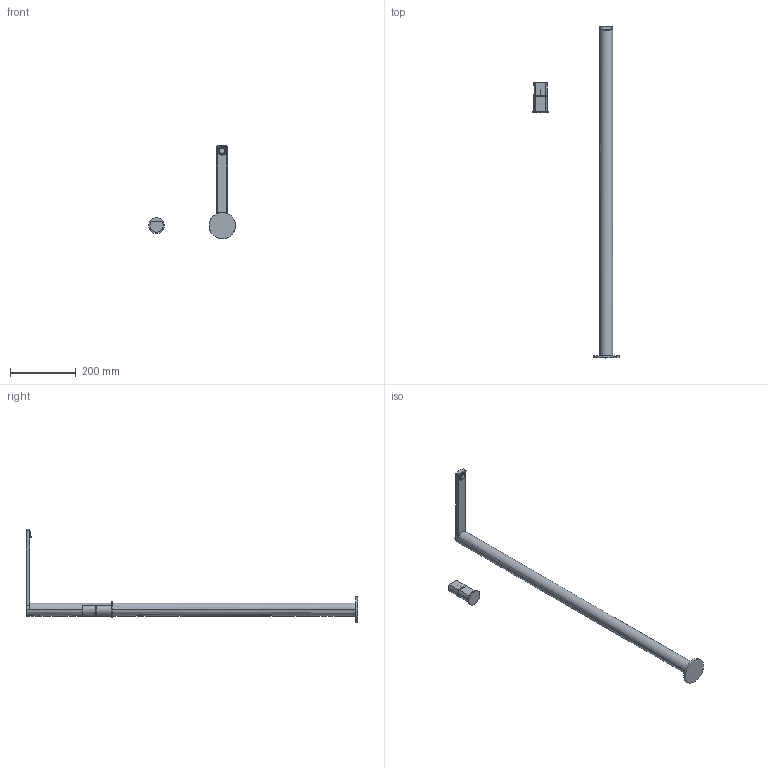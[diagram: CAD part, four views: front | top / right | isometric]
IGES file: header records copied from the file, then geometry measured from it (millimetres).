
Start section:  PTC IGES file: 89069b21_sw0001.igs
Global section: file name: 89069b21_sw0001.igs; native system: Creo Parametric by PTC Inc.; preprocessor: 2018100; author: carloff; organization: Unknown; date: 20200618.170203; units: millimetre
Bounding box: 264 x 1010 x 284.85 mm (x, y, z)
Surface area: 316170.3 mm2 (no closed solid volume)
Topology: 0 solids, 0 shells, 3057 faces, 15998 edges, 15996 vertices
Faces by surface type: bspline 2504, revolution 553
